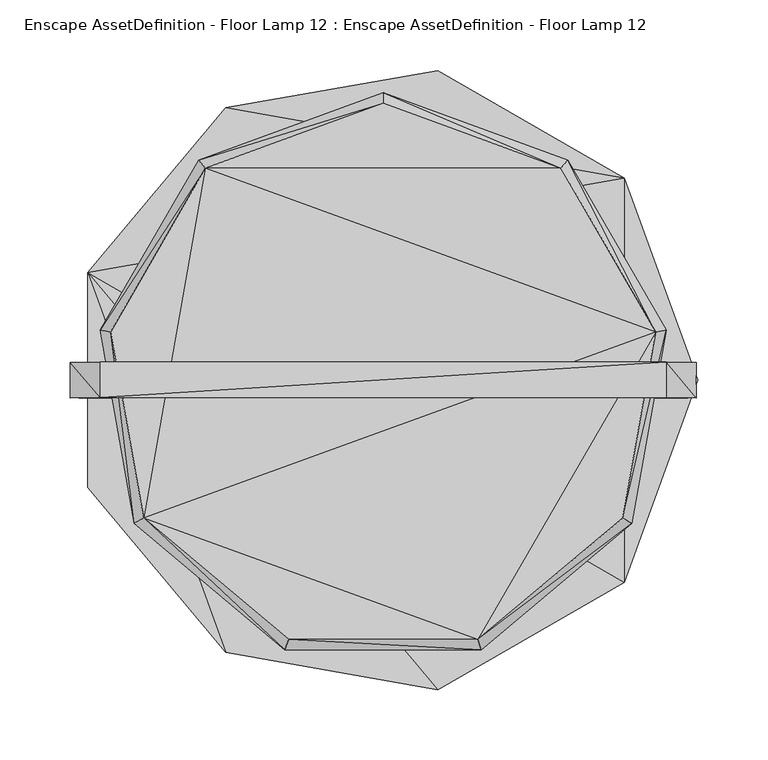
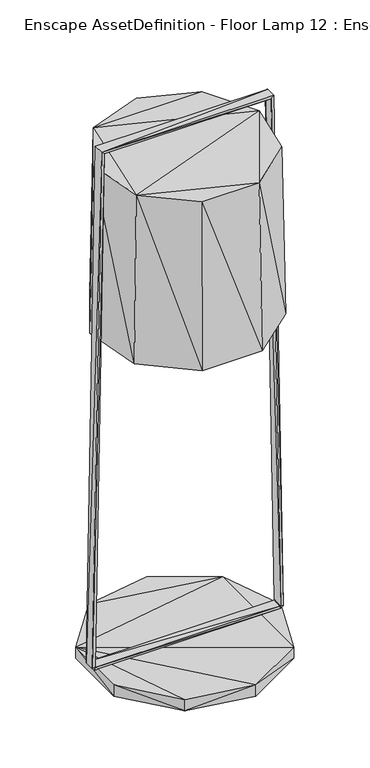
"""IFC4 building model written with IfcOpenShell, lengths in millimetres: geographic element geometry, Enscape AssetDefinition - Floor Lamp 12 : Enscape AssetDefinition - Floor Lamp 12."""

from ifc_helpers import new_model, si_unit, origin, place, context, project, spatial, faceted_brep, source, transform, mapped, element, save


def enscape_assetdefinition_floor_lamp_12_enscape_8a8a6cb6(model_context):
    return source(origin(), model_context, "Body", "Brep", [
        faceted_brep([(171.3841919, 143.7886773, 27.6509669), (-210.2102539, 76.5034081, 27.6509669), (171.3841919, -143.8103251, 27.6509669), (-210.2102539, 76.5034081, 0.0), (-210.2102539, -76.5250624, 0.0), (-111.8452549, 193.7300382, 27.6509669), (-111.8452549, -193.7508212, 27.6509669), (-210.2102539, -76.5250624, 27.6509669), (38.8581045, -220.3241377, 27.6509669), (-111.8452549, 193.7300382, 0.0), (38.8581045, 220.3033289, 0.0), (38.8581045, 220.3033289, 27.6509669), (38.8581045, -220.3241377, 0.0), (171.3841919, 143.7886773, 0.0), (223.7234268, -0.0103954, 0.0), (171.3841919, -143.8103251, 0.0), (-111.8452549, -193.7508212, 0.0), (223.7234268, -0.0103954, 27.6509669)], [[[0, 1, 2]], [[3, 4, 1]], [[0, 5, 1]], [[6, 1, 7]], [[1, 6, 8]], [[1, 8, 2]], [[1, 4, 7]], [[5, 3, 1]], [[9, 3, 5]], [[10, 3, 9]], [[10, 4, 3]], [[9, 5, 10]], [[0, 11, 5]], [[10, 5, 11]], [[4, 10, 12]], [[13, 10, 0]], [[14, 10, 13]], [[12, 10, 14]], [[0, 10, 11]], [[12, 15, 8]], [[12, 8, 16]], [[12, 14, 15]], [[4, 12, 16]], [[14, 13, 17]], [[15, 14, 2]], [[2, 14, 17]], [[17, 13, 0]], [[0, 2, 17]], [[8, 15, 2]], [[16, 8, 6]], [[4, 16, 7]], [[7, 16, 6]]]),
        faceted_brep([(-217.543354, -12.5585412, 27.6509669), (-217.543354, 12.5377502, 27.6509669), (217.564137, -12.5585412, 27.6509669), (-222.5184292, 12.5377502, 32.7109424), (-222.5184292, -12.5585412, 32.7109424), (-215.0744436, 12.5377502, 33.5417082), (-216.5869772, 12.5377502, 35.0802334), (217.564137, 12.5377502, 27.6509669), (215.0952266, 12.5377502, 33.5417082), (-216.5869772, -12.5585412, 35.0802334), (-195.3699157, -12.5585412, 1294.1093136), (-195.3699157, 12.5377502, 1294.1093136), (-215.0744436, -12.5585412, 33.5417082), (215.0952266, -12.5585412, 33.5417082), (216.6086379, 12.5377502, 35.0802334), (222.5400899, 12.5377502, 32.7109424), (216.6086379, -12.5585412, 35.0802334), (195.3906987, 12.5377502, 1294.1093136), (222.5400899, -12.5585412, 32.7109424), (201.1826855, 12.5377502, 1300.0), (195.3906987, -12.5585412, 1294.1093136), (201.1826855, -12.5585412, 1300.0), (-201.1619026, 12.5377502, 1300.0), (-201.1619026, -12.5585412, 1300.0)], [[[0, 1, 2]], [[3, 1, 4]], [[5, 1, 6]], [[7, 1, 8]], [[2, 1, 7]], [[4, 1, 0]], [[6, 1, 3]], [[8, 1, 5]], [[6, 9, 5]], [[9, 6, 10]], [[6, 3, 11]], [[10, 6, 11]], [[12, 13, 5]], [[5, 13, 8]], [[5, 9, 12]], [[13, 14, 8]], [[14, 7, 8]], [[15, 7, 14]], [[15, 2, 7]], [[14, 16, 17]], [[16, 14, 13]], [[17, 15, 14]], [[13, 2, 16]], [[12, 2, 13]], [[0, 2, 12]], [[9, 0, 12]], [[18, 2, 15]], [[16, 2, 18]], [[15, 19, 18]], [[19, 15, 17]], [[11, 17, 10]], [[10, 17, 20]], [[17, 16, 20]], [[11, 19, 17]], [[16, 18, 20]], [[18, 19, 21]], [[20, 18, 21]], [[22, 23, 19]], [[22, 19, 11]], [[19, 23, 21]], [[11, 3, 22]], [[3, 23, 22]], [[4, 23, 3]], [[21, 23, 20]], [[23, 4, 10]], [[20, 23, 10]], [[10, 4, 9]], [[4, 0, 9]]]),
        faceted_brep([(193.7603478, 34.1524396, 1235.8480887), (-170.3697777, -98.3797149, 1235.8480887), (67.2991266, -184.8843916, 1235.8480887), (-176.9310174, -102.1679807, 824.1052471), (-69.8693958, -192.0035307, 824.1052471), (-126.4508361, 150.6998966, 1235.8480887), (-193.7395648, 34.1524396, 1235.8480887), (-67.2783308, -184.8843916, 1235.8480887), (-201.2000089, 35.468329, 824.1052471), (176.9526782, -102.1679807, 824.1052471), (69.8901852, -192.0035307, 824.1052471), (201.2216697, 35.468329, 824.1052471), (170.3914384, -98.3797149, 1235.8480887), (131.3418759, 156.5040047, 824.1052471), (126.4716191, 150.6998966, 1235.8480887), (0.0103954, 204.3039092, 824.1052471), (-131.3202281, 156.5040047, 824.1052471), (0.0103954, 196.7282424, 1235.8480887)], [[[0, 1, 2]], [[3, 4, 1]], [[1, 5, 6]], [[2, 1, 7]], [[0, 5, 1]], [[1, 4, 7]], [[6, 3, 1]], [[8, 3, 6]], [[8, 4, 3]], [[8, 9, 4]], [[4, 10, 7]], [[4, 9, 10]], [[7, 10, 2]], [[10, 9, 2]], [[9, 11, 12]], [[9, 13, 11]], [[8, 13, 9]], [[2, 9, 12]], [[11, 13, 0]], [[12, 11, 0]], [[0, 2, 12]], [[5, 0, 14]], [[0, 13, 14]], [[13, 15, 14]], [[13, 16, 15]], [[13, 8, 16]], [[5, 14, 17]], [[14, 15, 17]], [[15, 16, 17]], [[16, 8, 5]], [[17, 16, 5]], [[5, 8, 6]]]),
    ])


if __name__ == "__main__":
    model = new_model("IFC4")
    model_context = context("Model", 3, world=origin())
    ifc_project = project(units=[si_unit("LENGTHUNIT", "METRE", prefix="MILLI")], contexts=[model_context])
    site = spatial("IfcSite", under=ifc_project)
    building = spatial("IfcBuilding", under=site)
    placement = place(None, origin())
    enscape_assetdefinition_floor_lamp_12_enscape_shape = enscape_assetdefinition_floor_lamp_12_enscape_8a8a6cb6(model_context)
    element("IfcGeographicElement", 1, ObjectType="Enscape AssetDefinition - Floor Lamp 12 : Enscape AssetDefinition - Floor Lamp 12", at=placement, inside=building, context=model_context, shape_type="MappedRepresentation", body=[
        mapped(enscape_assetdefinition_floor_lamp_12_enscape_shape, transform((0.0, 0.0, 0.0), x_axis=(1.0, 0.0, 0.0), y_axis=(0.0, 1.0, 0.0), z_axis=(0.0, 0.0, 1.0))),
    ])
    save(model, "model.ifc")
